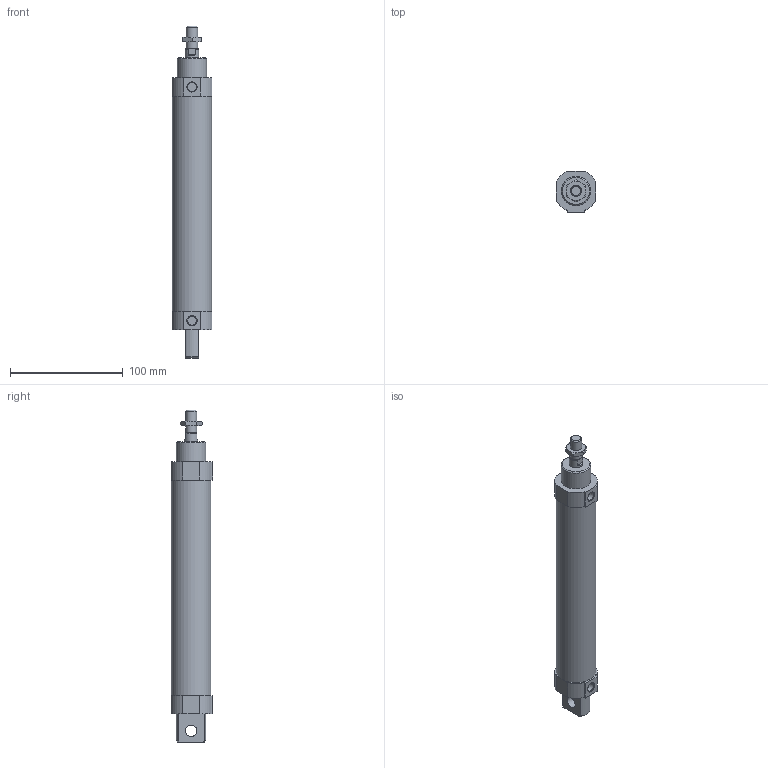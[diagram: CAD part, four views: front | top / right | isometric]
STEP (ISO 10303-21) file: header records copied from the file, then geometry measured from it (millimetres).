
FILE_DESCRIPTION((''),'2;1');
FILE_NAME('I:\3D電子目錄\氣缸\FDA\FDA\FDA\FDA30\FDA30x150.stp','2007-10-16T10:05:08',('66-2f-008'),(''),'Autodesk Inventor 11','Autodesk Inventor 11','');
FILE_SCHEMA(('AUTOMOTIVE_DESIGN { 1 0 10303 214 1 1 1 1 }'));
Length unit declared in the file: millimetre
Products named in the file (1): FDA30
Bounding box: 35 x 36.5 x 294 mm (x, y, z)
Volume: 237201.5 mm3; surface area: 32440.1 mm2
Topology: 1 solids, 1 shells, 79 faces, 184 edges, 114 vertices
Faces by surface type: plane 41, cone 20, cylinder 18
Full cylindrical faces by diameter (mm): 8 x2, 10 x3, 12 x1, 26 x1, 35 x1
Entity records: 2151 total; most frequent: CARTESIAN_POINT 426, DIRECTION 362, ORIENTED_EDGE 340, EDGE_CURVE 170, AXIS2_PLACEMENT_3D 144, VERTEX_POINT 112, EDGE_LOOP 100, FACE_OUTER_BOUND 79
